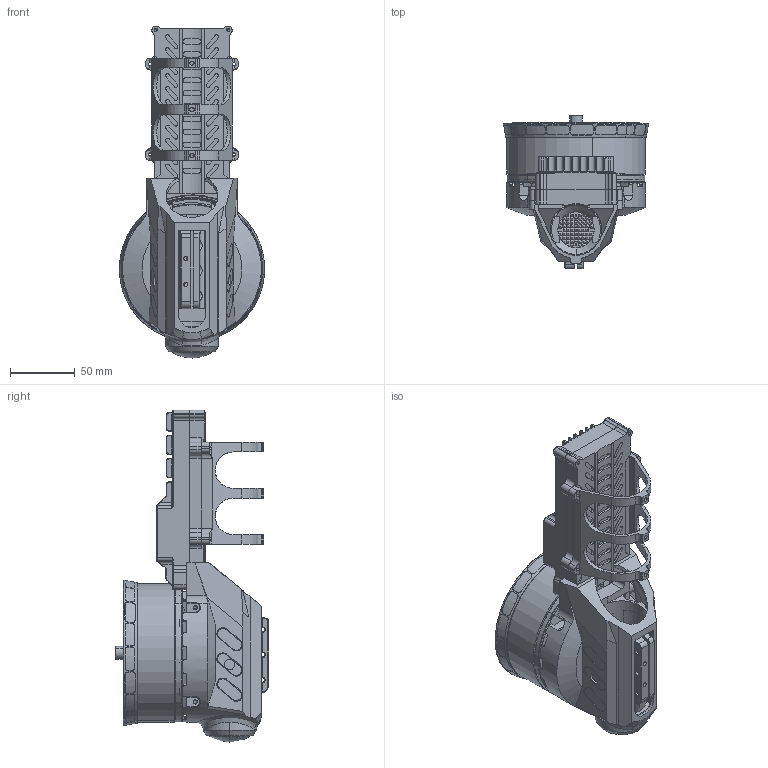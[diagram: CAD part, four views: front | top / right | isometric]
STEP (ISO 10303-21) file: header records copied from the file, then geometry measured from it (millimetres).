
FILE_DESCRIPTION (( 'STEP AP214' ), '1' );
FILE_NAME ('A10XL珨极趙.STEP', '2024-07-18T07:39:26', ( '' ), ( '' ), 'SwSTEP 2.0', 'SolidWorks 2022', '' );
FILE_SCHEMA (( 'AUTOMOTIVE_DESIGN' ));
Length unit declared in the file: millimetre
Products named in the file (1): A10XL一体化
Bounding box: 112.3 x 118.5 x 257 mm (x, y, z)
Volume: 748316.1 mm3; surface area: 300530.3 mm2
Topology: 16 solids, 22 shells, 4321 faces, 10911 edges, 6707 vertices
Faces by surface type: cylinder 1762, plane 1411, bspline 740, cone 272, torus 121, sphere 15
Entity records: 214405 total; most frequent: CARTESIAN_POINT 67786, ORIENTED_EDGE 21720, DIRECTION 19673, EDGE_CURVE 10860, AXIS2_PLACEMENT_3D 7464, VERTEX_POINT 6707, LINE 4745, VECTOR 4745
